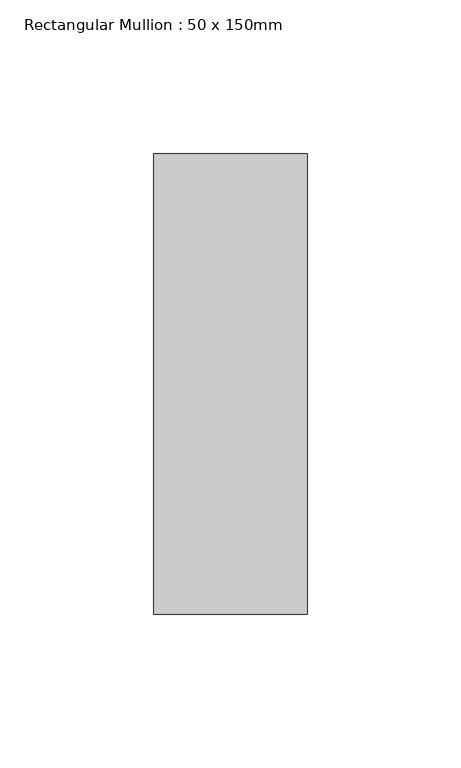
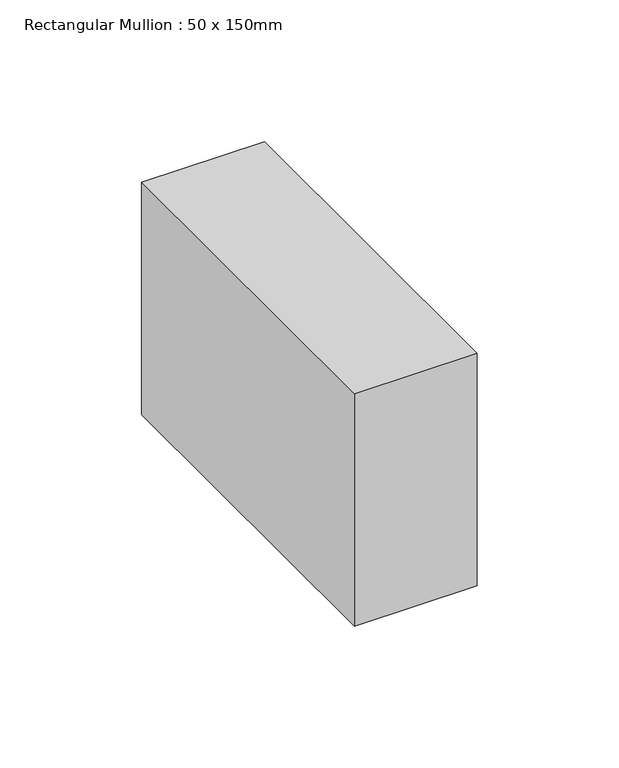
"""IFC4 building model written with IfcOpenShell, lengths in millimetres: member geometry, Rectangular Mullion : 50 x 150mm."""

import ifcopenshell
import ifcopenshell.guid

model = None  # the IFC model being written
_history = None  # IfcOwnerHistory: only IFC2X3 demands one
_inside = {}  # id of a spatial element -> (the spatial element, [elements in it])
_under = {}  # id of a project, library or spatial element -> (it, [spatial elements below it])
_declared = {}  # id of a project -> (the project, [libraries it declares])
_typed = {}  # id of a type object -> (the type object, [elements of that type])
_made_of = {}  # id of a material, layer set ... -> (it, [elements and type objects made of it])


def new_model(schema):
    """Start an empty IFC model of exactly this schema.

    Asked for "IFC4X3", IfcOpenShell would pick the latest addendum, in which some entities
    have other attributes; the version numbers below select the first issue.
    IFC2X3 requires an IfcOwnerHistory on every rooted entity: one is made here for all.
    """
    global model, _history
    if schema == "IFC4X3":
        model = ifcopenshell.file(schema_version=(4, 3, 0, 0))
    else:
        model = ifcopenshell.file(schema=schema)
    _inside.clear()
    _under.clear()
    _declared.clear()
    _typed.clear()
    _made_of.clear()
    _history = None
    if model.schema == "IFC2X3":
        org = make("IfcOrganization", Name="unknown")
        user = make(
            "IfcPersonAndOrganization",
            ThePerson=make("IfcPerson", FamilyName="unknown"),
            TheOrganization=org,
        )
        app = make(
            "IfcApplication",
            ApplicationDeveloper=org,
            Version="unknown",
            ApplicationFullName="unknown",
            ApplicationIdentifier="unknown",
        )
        _history = make(
            "IfcOwnerHistory",
            OwningUser=user,
            OwningApplication=app,
            ChangeAction="ADDED",
            CreationDate=0,
        )
    return model


def make(cls, **values):
    """One entity of the class cls with the attributes given. An attribute that is None is left unset."""
    return model.create_entity(
        cls, **{name: value for name, value in values.items() if value is not None}
    )


def rooted(cls, **values):
    """An entity with a GlobalId (a new one), such as an element, a storey or a relation."""
    return make(cls, GlobalId=ifcopenshell.guid.new(), OwnerHistory=_history, **values)


def si_unit(unit_type, name, prefix=None):
    """IfcSIUnit, for example si_unit("LENGTHUNIT", "METRE", prefix="MILLI")."""
    return make("IfcSIUnit", UnitType=unit_type, Prefix=prefix, Name=name)


def assignment(units):
    """IfcUnitAssignment: the units of a project."""
    return None if units is None else make("IfcUnitAssignment", Units=units)


def point(xyz):
    """IfcCartesianPoint."""
    return None if xyz is None else make("IfcCartesianPoint", Coordinates=xyz)


def direction(xyz):
    """IfcDirection."""
    return None if xyz is None else make("IfcDirection", DirectionRatios=xyz)


def frame(location, z_axis=None, x_axis=None):
    """IfcAxis2Placement3D, a coordinate frame: its origin and axes. An axis left out is left unset."""
    return make(
        "IfcAxis2Placement3D",
        Location=point(location),
        Axis=direction(z_axis),
        RefDirection=direction(x_axis),
    )


def origin():
    """The frame at (0, 0, 0) with its axes left unset."""
    return frame((0.0, 0.0, 0.0))


def place(relative_to, where):
    """IfcLocalPlacement: puts the frame where relative to a parent placement (None: the world)."""
    return make(
        "IfcLocalPlacement", PlacementRelTo=relative_to, RelativePlacement=where
    )


def context(
    kind, dimensions, precision=None, world=None, true_north=None, identifier=None
):
    """IfcGeometricRepresentationContext, for example the 3D "Model" context."""
    return make(
        "IfcGeometricRepresentationContext",
        ContextIdentifier=identifier,
        ContextType=kind,
        CoordinateSpaceDimension=dimensions,
        Precision=precision,
        WorldCoordinateSystem=world,
        TrueNorth=true_north,
    )


def project(units=None, contexts=None):
    """IfcProject with its units and contexts."""
    return rooted(
        "IfcProject",
        Name="project",
        RepresentationContexts=contexts,
        UnitsInContext=assignment(units),
    )


def spatial(cls, under=None, at=None, **own):
    """A site, building, storey or space (cls), placed at a placement, below another one or the project."""
    s = rooted(cls, ObjectPlacement=at, **own)
    if under is not None:
        _under.setdefault(under.id(), (under, []))[1].append(s)
    return s


def polyline(points):
    """IfcPolyline through the points."""
    return make("IfcPolyline", Points=[point(p) for p in points])


def outline(outer, holes=None, kind="AREA"):
    """IfcArbitraryClosedProfileDef: a profile drawn as a closed curve; with holes, ...WithVoids."""
    if holes is None:
        return make("IfcArbitraryClosedProfileDef", ProfileType=kind, OuterCurve=outer)
    return make(
        "IfcArbitraryProfileDefWithVoids",
        ProfileType=kind,
        OuterCurve=outer,
        InnerCurves=holes,
    )


def extrude(swept, where, along, depth):
    """IfcExtrudedAreaSolid: the profile swept, set in the frame where, extruded along a direction by depth."""
    return make(
        "IfcExtrudedAreaSolid",
        SweptArea=swept,
        Position=where,
        ExtrudedDirection=direction(along),
        Depth=depth,
    )


def shape(context_of_items, identifier, shape_type, items):
    """IfcShapeRepresentation: the items that make up one representation, for example the "Body"."""
    return make(
        "IfcShapeRepresentation",
        ContextOfItems=context_of_items,
        RepresentationIdentifier=identifier,
        RepresentationType=shape_type,
        Items=items,
    )


def source(mapping_origin, context_of_items, identifier, shape_type, items):
    """IfcRepresentationMap: a shape defined once, which mapped items show again and again."""
    return make(
        "IfcRepresentationMap",
        MappingOrigin=mapping_origin,
        MappedRepresentation=shape(context_of_items, identifier, shape_type, items),
    )


def transform(
    local_origin,
    x_axis=None,
    y_axis=None,
    z_axis=None,
    scale=None,
    scale2=None,
    scale3=None,
    uniform=True,
):
    """IfcCartesianTransformationOperator3D, or its non-uniform kind. x_axis, y_axis, z_axis: its Axis1, 2, 3."""
    if uniform:
        return make(
            "IfcCartesianTransformationOperator3D",
            Axis1=direction(x_axis),
            Axis2=direction(y_axis),
            LocalOrigin=point(local_origin),
            Scale=scale,
            Axis3=direction(z_axis),
        )
    return make(
        "IfcCartesianTransformationOperator3DnonUniform",
        Axis1=direction(x_axis),
        Axis2=direction(y_axis),
        LocalOrigin=point(local_origin),
        Scale=scale,
        Axis3=direction(z_axis),
        Scale2=scale2,
        Scale3=scale3,
    )


def mapped(mapping_source, mapping_target):
    """IfcMappedItem: shows the shape of a source again, moved by a transform."""
    return make(
        "IfcMappedItem", MappingSource=mapping_source, MappingTarget=mapping_target
    )


def made_of(thing, what):
    """Note that an element or type object is made of a material, layer set ...; save() writes the relation."""
    if what is not None:
        _made_of.setdefault(what.id(), (what, []))[1].append(thing)
    return thing


def element(
    cls,
    number,
    at=None,
    inside=None,
    cuts=None,
    type_object=None,
    material=None,
    context=None,
    identifier="Body",
    shape_type=None,
    held_by="IfcProductDefinitionShape",
    body=None,
    shapes=None,
    **own,
):
    """One element of the class cls, such as IfcWall. Its Tag is "e" and its number.

    at: its placement. inside: the storey or other place that contains it. cuts: it is an
    opening in that element (IfcRelVoidsElement). A single representation is given by context,
    identifier, shape_type and body (its items); several are given by shapes. held_by: the class
    of the entity that holds the representations. save() writes the other relations.
    """
    e = rooted(cls, Tag="e%d" % number, ObjectPlacement=at, **own)
    if body is not None:
        shapes = [shape(context, identifier, shape_type, body)]
    if shapes is not None:
        e.Representation = make(held_by, Representations=shapes)
    if inside is not None:
        _inside.setdefault(inside.id(), (inside, []))[1].append(e)
    if cuts is not None:
        rooted(
            "IfcRelVoidsElement", RelatingBuildingElement=cuts, RelatedOpeningElement=e
        )
    if type_object is not None:
        _typed.setdefault(type_object.id(), (type_object, []))[1].append(e)
    return made_of(e, material)


def aggregate(whole, parts):
    """IfcRelAggregates: a whole, such as a stair, and the parts it consists of."""
    return rooted("IfcRelAggregates", RelatingObject=whole, RelatedObjects=parts)


def save(model, path):
    """Write the relations noted so far, then the file.

    IfcRelAggregates (storeys below a building ...), IfcRelContainedInSpatialStructure (elements
    in a storey), IfcRelDefinesByType, IfcRelAssociatesMaterial and IfcRelDeclares: one each for
    every whole, place, type object, material and project.
    """
    for whole, parts in _under.values():
        aggregate(whole, parts)
    for where, things in _inside.values():
        rooted(
            "IfcRelContainedInSpatialStructure",
            RelatedElements=things,
            RelatingStructure=where,
        )
    for kind, things in _typed.values():
        rooted("IfcRelDefinesByType", RelatedObjects=things, RelatingType=kind)
    for what, things in _made_of.values():
        rooted("IfcRelAssociatesMaterial", RelatedObjects=things, RelatingMaterial=what)
    for by, libraries in _declared.values():
        rooted("IfcRelDeclares", RelatingContext=by, RelatedDefinitions=libraries)
    model.write(path)


def rectangular_mullion_50_x_150mm_6708a452(model_context):
    return source(origin(), model_context, "Body", "SweptSolid", [
        extrude(outline(polyline([(0.0, 75.0), (0.0, -75.0), (-50.0, -75.0), (-50.0, 75.0), (0.0, 75.0)])), frame((0.0, 0.0, -100.0038855), z_axis=(0.0, 0.0, 1.0), x_axis=(1.0, 0.0, 0.0)), (0.0, 0.0, 1.0), 100.0038855),
    ])


if __name__ == "__main__":
    model = new_model("IFC4")
    model_context = context("Model", 3, world=origin())
    ifc_project = project(units=[si_unit("LENGTHUNIT", "METRE", prefix="MILLI")], contexts=[model_context])
    site = spatial("IfcSite", under=ifc_project)
    building = spatial("IfcBuilding", under=site)
    placement = place(None, origin())
    rectangular_mullion_50_x_150mm_shape = rectangular_mullion_50_x_150mm_6708a452(model_context)
    element("IfcMember", 1, ObjectType="Rectangular Mullion : 50 x 150mm", at=placement, inside=building, context=model_context, shape_type="MappedRepresentation", body=[
        mapped(rectangular_mullion_50_x_150mm_shape, transform((0.0, 0.0, 0.0), x_axis=(1.0, 0.0, 0.0), y_axis=(0.0, 1.0, 0.0), z_axis=(0.0, 0.0, 1.0))),
    ])
    save(model, "model.ifc")
